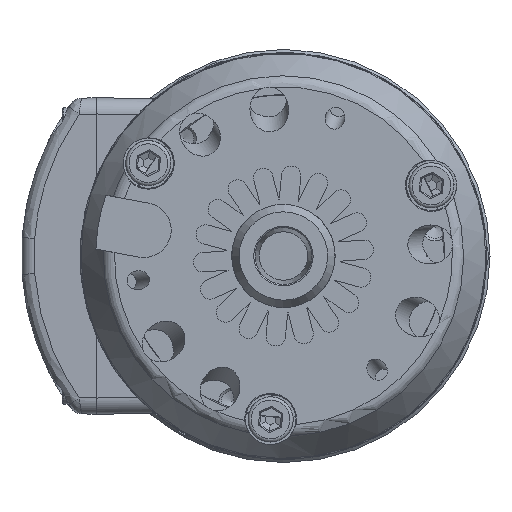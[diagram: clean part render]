
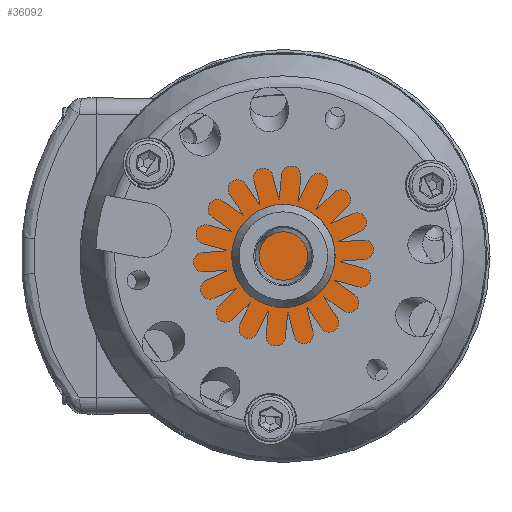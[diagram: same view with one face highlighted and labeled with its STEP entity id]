
A CAD part, front view. The second image highlights one B-rep face of the part: STEP entity #36092.
In plain terms, the highlighted planar face has unit normal (0, -1, 0).
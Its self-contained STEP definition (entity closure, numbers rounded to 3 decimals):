
#1928 = ORIENTED_EDGE ( 'NONE', *, *, #18113, .T. ) ;
#6261 = CARTESIAN_POINT ( 'NONE',  ( 0., 54.7, 18.498 ) ) ;
#6499 = FACE_OUTER_BOUND ( 'NONE', #15469, .T. ) ;
#13689 = DIRECTION ( 'NONE',  ( -1., 0., 0. ) ) ;
#14838 = AXIS2_PLACEMENT_3D ( 'NONE', #6261, #28321, #32378 ) ;
#15469 = EDGE_LOOP ( 'NONE', ( #1928 ) ) ;
#16585 = DIRECTION ( 'NONE',  ( 0., -1., 0. ) ) ;
#16749 = AXIS2_PLACEMENT_3D ( 'NONE', #35018, #16585, #13689 ) ;
#18113 = EDGE_CURVE ( 'NONE', #29210, #29210, #42703, .T. ) ;
#28321 = DIRECTION ( 'NONE',  ( 0., 1., 0. ) ) ;
#28563 = PLANE ( 'NONE',  #14838 ) ;
#29210 = VERTEX_POINT ( 'NONE', #44263 ) ;
#32378 = DIRECTION ( 'NONE',  ( 1., 0., 0. ) ) ;
#35018 = CARTESIAN_POINT ( 'NONE',  ( 0., 54.7, 0. ) ) ;
#36092 = ADVANCED_FACE ( 'NONE', ( #6499 ), #28563, .F. ) ;
#42703 = CIRCLE ( 'NONE', #16749, 18.498 ) ;
#44263 = CARTESIAN_POINT ( 'NONE',  ( -18.498, 54.7, 0. ) ) ;
